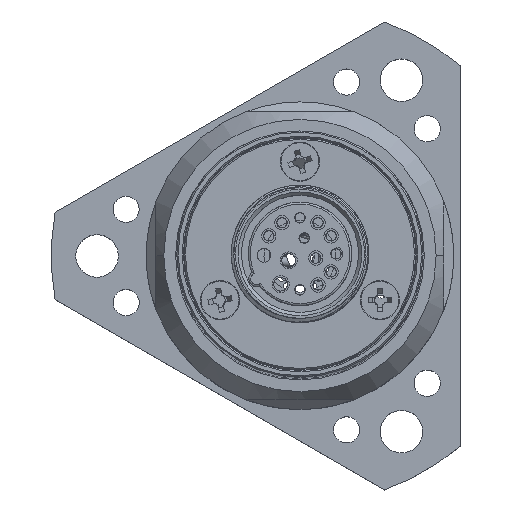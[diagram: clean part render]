
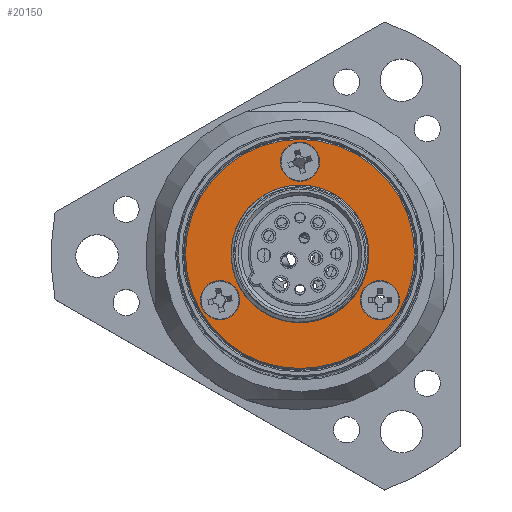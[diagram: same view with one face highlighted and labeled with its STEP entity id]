
A CAD part, top view. The second image highlights one B-rep face of the part: STEP entity #20150.
In plain terms, the highlighted planar face has unit normal (0, 0, 1).
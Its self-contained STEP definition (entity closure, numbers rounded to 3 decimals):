
#24 = FACE_BOUND ( 'NONE', #11536, .T. ) ;
#377 = EDGE_LOOP ( 'NONE', ( #18514, #14145 ) ) ;
#721 = VERTEX_POINT ( 'NONE', #5957 ) ;
#856 = DIRECTION ( 'NONE',  ( 0., 0., -1. ) ) ;
#1024 = ORIENTED_EDGE ( 'NONE', *, *, #16111, .T. ) ;
#1153 = CARTESIAN_POINT ( 'NONE',  ( 0., 14.1, 180. ) ) ;
#1474 = CARTESIAN_POINT ( 'NONE',  ( 5.25, -9.093, 180. ) ) ;
#1673 = EDGE_CURVE ( 'NONE', #16964, #5996, #8453, .T. ) ;
#1720 = AXIS2_PLACEMENT_3D ( 'NONE', #1918, #8431, #11751 ) ;
#1918 = CARTESIAN_POINT ( 'NONE',  ( 0., 0., 180. ) ) ;
#2960 = AXIS2_PLACEMENT_3D ( 'NONE', #19110, #6043, #4183 ) ;
#3116 = DIRECTION ( 'NONE',  ( 0., 0., 1. ) ) ;
#3171 = CARTESIAN_POINT ( 'NONE',  ( 0., 0., 180. ) ) ;
#3445 = FACE_OUTER_BOUND ( 'NONE', #20573, .T. ) ;
#3661 = EDGE_CURVE ( 'NONE', #4470, #18112, #17795, .T. ) ;
#4183 = DIRECTION ( 'NONE',  ( -0.5, 0.866, 0. ) ) ;
#4310 = ORIENTED_EDGE ( 'NONE', *, *, #16297, .T. ) ;
#4388 = DIRECTION ( 'NONE',  ( -0.5, 0.866, 0. ) ) ;
#4411 = CARTESIAN_POINT ( 'NONE',  ( 1.45, 11.589, 180. ) ) ;
#4470 = VERTEX_POINT ( 'NONE', #4411 ) ;
#4814 = CARTESIAN_POINT ( 'NONE',  ( 12.211, -7.05, 180. ) ) ;
#4869 = EDGE_CURVE ( 'NONE', #5996, #16964, #17079, .T. ) ;
#5552 = ORIENTED_EDGE ( 'NONE', *, *, #11602, .T. ) ;
#5957 = CARTESIAN_POINT ( 'NONE',  ( -8.75, 15.155, 180. ) ) ;
#5996 = VERTEX_POINT ( 'NONE', #1474 ) ;
#6043 = DIRECTION ( 'NONE',  ( 0., 0., -1. ) ) ;
#6108 = CARTESIAN_POINT ( 'NONE',  ( 12.211, -7.05, 180. ) ) ;
#6417 = CARTESIAN_POINT ( 'NONE',  ( 13.661, -9.561, 180. ) ) ;
#6928 = DIRECTION ( 'NONE',  ( -0.5, 0.866, 0. ) ) ;
#7205 = CARTESIAN_POINT ( 'NONE',  ( -5.25, 9.093, 180. ) ) ;
#7667 = EDGE_LOOP ( 'NONE', ( #4310, #1024 ) ) ;
#8220 = DIRECTION ( 'NONE',  ( -0.5, 0.866, 0. ) ) ;
#8416 = CIRCLE ( 'NONE', #19370, 2.9 ) ;
#8431 = DIRECTION ( 'NONE',  ( 0., 0., -1. ) ) ;
#8453 = CIRCLE ( 'NONE', #15529, 10.5 ) ;
#8759 = CIRCLE ( 'NONE', #15119, 2.9 ) ;
#9156 = CIRCLE ( 'NONE', #21494, 2.9 ) ;
#9419 = ORIENTED_EDGE ( 'NONE', *, *, #20526, .F. ) ;
#9609 = CARTESIAN_POINT ( 'NONE',  ( -1.45, 16.611, 180. ) ) ;
#9845 = DIRECTION ( 'NONE',  ( -0.5, 0.866, 0. ) ) ;
#10914 = DIRECTION ( 'NONE',  ( -0.5, 0.866, 0. ) ) ;
#11034 = EDGE_CURVE ( 'NONE', #14227, #721, #16496, .T. ) ;
#11283 = ORIENTED_EDGE ( 'NONE', *, *, #11034, .F. ) ;
#11454 = CARTESIAN_POINT ( 'NONE',  ( 0., 14.1, 180. ) ) ;
#11514 = FACE_BOUND ( 'NONE', #7667, .T. ) ;
#11519 = VERTEX_POINT ( 'NONE', #12872 ) ;
#11536 = EDGE_LOOP ( 'NONE', ( #16342, #18641 ) ) ;
#11552 = DIRECTION ( 'NONE',  ( 0., 0., -1. ) ) ;
#11566 = DIRECTION ( 'NONE',  ( 0.5, -0.866, 0. ) ) ;
#11602 = EDGE_CURVE ( 'NONE', #19062, #11519, #8759, .T. ) ;
#11751 = DIRECTION ( 'NONE',  ( 0.5, -0.866, 0. ) ) ;
#11765 = EDGE_LOOP ( 'NONE', ( #18613, #5552 ) ) ;
#12014 = DIRECTION ( 'NONE',  ( 0., 0., -1. ) ) ;
#12872 = CARTESIAN_POINT ( 'NONE',  ( 10.761, -4.539, 180. ) ) ;
#13104 = CARTESIAN_POINT ( 'NONE',  ( -12.211, -7.05, 180. ) ) ;
#13148 = CARTESIAN_POINT ( 'NONE',  ( -10.761, -9.561, 180. ) ) ;
#13191 = DIRECTION ( 'NONE',  ( 0., 0., -1. ) ) ;
#13501 = FACE_BOUND ( 'NONE', #11765, .T. ) ;
#14145 = ORIENTED_EDGE ( 'NONE', *, *, #3661, .T. ) ;
#14227 = VERTEX_POINT ( 'NONE', #19287 ) ;
#14663 = DIRECTION ( 'NONE',  ( 0., 0., -1. ) ) ;
#14739 = AXIS2_PLACEMENT_3D ( 'NONE', #3171, #16308, #11566 ) ;
#14752 = DIRECTION ( 'NONE',  ( -0.5, 0.866, 0. ) ) ;
#15119 = AXIS2_PLACEMENT_3D ( 'NONE', #6108, #13191, #19925 ) ;
#15490 = AXIS2_PLACEMENT_3D ( 'NONE', #4814, #12014, #6928 ) ;
#15529 = AXIS2_PLACEMENT_3D ( 'NONE', #17648, #856, #10914 ) ;
#15627 = DIRECTION ( 'NONE',  ( -0.5, 0.866, 0. ) ) ;
#15888 = CARTESIAN_POINT ( 'NONE',  ( -13.661, -4.539, 180. ) ) ;
#16111 = EDGE_CURVE ( 'NONE', #19496, #18444, #21141, .T. ) ;
#16297 = EDGE_CURVE ( 'NONE', #18444, #19496, #9156, .T. ) ;
#16308 = DIRECTION ( 'NONE',  ( 0., 0., -1. ) ) ;
#16342 = ORIENTED_EDGE ( 'NONE', *, *, #1673, .T. ) ;
#16496 = CIRCLE ( 'NONE', #14739, 17.5 ) ;
#16964 = VERTEX_POINT ( 'NONE', #7205 ) ;
#17079 = CIRCLE ( 'NONE', #2960, 10.5 ) ;
#17648 = CARTESIAN_POINT ( 'NONE',  ( 0., 0., 180. ) ) ;
#17795 = CIRCLE ( 'NONE', #18868, 2.9 ) ;
#18112 = VERTEX_POINT ( 'NONE', #9609 ) ;
#18243 = CARTESIAN_POINT ( 'NONE',  ( 0., 0., 180. ) ) ;
#18444 = VERTEX_POINT ( 'NONE', #15888 ) ;
#18514 = ORIENTED_EDGE ( 'NONE', *, *, #21106, .T. ) ;
#18613 = ORIENTED_EDGE ( 'NONE', *, *, #20676, .T. ) ;
#18614 = DIRECTION ( 'NONE',  ( 0., 0., -1. ) ) ;
#18641 = ORIENTED_EDGE ( 'NONE', *, *, #4869, .T. ) ;
#18838 = CARTESIAN_POINT ( 'NONE',  ( -12.211, -7.05, 180. ) ) ;
#18868 = AXIS2_PLACEMENT_3D ( 'NONE', #11454, #14663, #4388 ) ;
#19062 = VERTEX_POINT ( 'NONE', #6417 ) ;
#19110 = CARTESIAN_POINT ( 'NONE',  ( 0., 0., 180. ) ) ;
#19287 = CARTESIAN_POINT ( 'NONE',  ( 8.75, -15.155, 180. ) ) ;
#19292 = DIRECTION ( 'NONE',  ( 0., 0., -1. ) ) ;
#19370 = AXIS2_PLACEMENT_3D ( 'NONE', #1153, #19292, #14752 ) ;
#19496 = VERTEX_POINT ( 'NONE', #13148 ) ;
#19710 = CIRCLE ( 'NONE', #15490, 2.9 ) ;
#19738 = AXIS2_PLACEMENT_3D ( 'NONE', #13104, #11552, #8220 ) ;
#19909 = FACE_BOUND ( 'NONE', #377, .T. ) ;
#19925 = DIRECTION ( 'NONE',  ( -0.5, 0.866, 0. ) ) ;
#20058 = CIRCLE ( 'NONE', #1720, 17.5 ) ;
#20150 = ADVANCED_FACE ( 'NONE', ( #24, #19909, #13501, #11514, #3445 ), #20347, .T. ) ;
#20347 = PLANE ( 'NONE',  #20414 ) ;
#20414 = AXIS2_PLACEMENT_3D ( 'NONE', #18243, #3116, #9845 ) ;
#20526 = EDGE_CURVE ( 'NONE', #721, #14227, #20058, .T. ) ;
#20573 = EDGE_LOOP ( 'NONE', ( #11283, #9419 ) ) ;
#20676 = EDGE_CURVE ( 'NONE', #11519, #19062, #19710, .T. ) ;
#21106 = EDGE_CURVE ( 'NONE', #18112, #4470, #8416, .T. ) ;
#21141 = CIRCLE ( 'NONE', #19738, 2.9 ) ;
#21494 = AXIS2_PLACEMENT_3D ( 'NONE', #18838, #18614, #15627 ) ;
